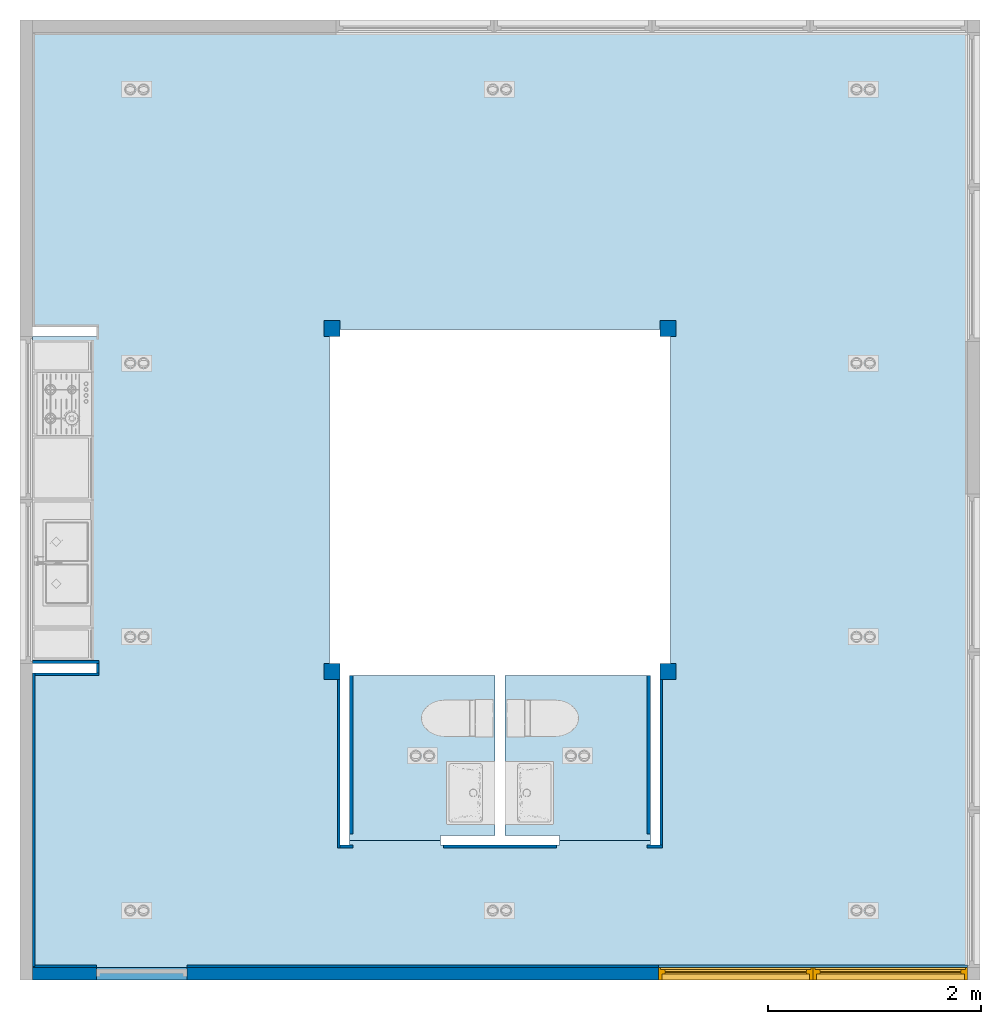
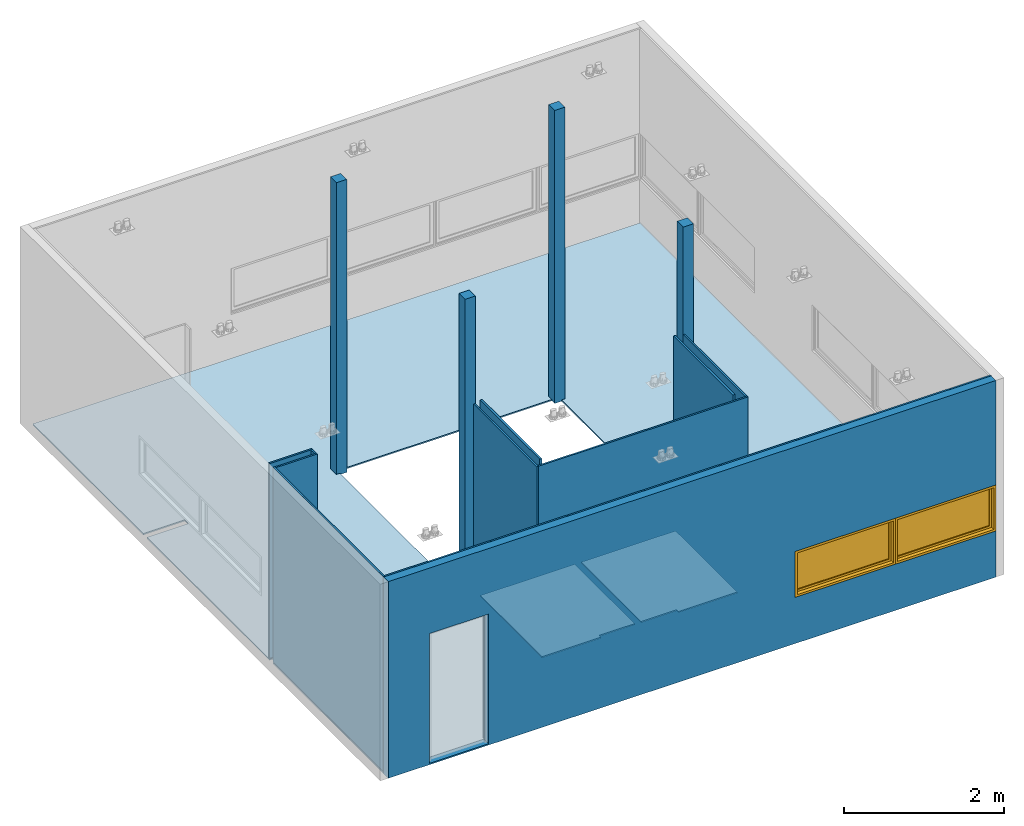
"""IFC2X3 building model written with IfcOpenShell, lengths in centimetres."""

from ifc_helpers import new_model, entity, si_unit, converted_unit, derived_unit, direction, frame, frame_2d, origin, origin_2d_with_axis, place, context, subcontext, project, spatial, polyline, rectangle, outline, extrude, boolean, source, transform, mapped, material, material_list, layer, layer_set, layer_usage, type_object, type_shapes, element, fill, save


model = new_model("IFC2X3")

# Units and contexts
model_context = context("Model", 3, precision=0.001, world=origin(), true_north=direction((6.123233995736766e-17, 1.0)))
body_context = subcontext(model_context, "Body", "Model", "MODEL_VIEW")
ifc_project = project(units=[si_unit("LENGTHUNIT", "METRE", prefix="CENTI"), si_unit("AREAUNIT", "SQUARE_METRE"), si_unit("VOLUMEUNIT", "CUBIC_METRE"), converted_unit("PLANEANGLEUNIT", "DEGREE", entity("IfcPlaneAngleMeasure", 0.017453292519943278), si_unit("PLANEANGLEUNIT", "RADIAN"), dimensions=[0, 0, 0, 0, 0, 0, 0]), si_unit("POWERUNIT", "WATT"), derived_unit("USERDEFINED", [(si_unit("MASSUNIT", "GRAM", prefix="KILO"), 1), (si_unit("TIMEUNIT", "SECOND"), -3)]), si_unit("FORCEUNIT", "NEWTON", prefix="KILO"), derived_unit("THERMALTRANSMITTANCEUNIT", [(si_unit("MASSUNIT", "GRAM", prefix="KILO"), 1), (si_unit("TIMEUNIT", "SECOND"), -3), (si_unit("THERMODYNAMICTEMPERATUREUNIT", "KELVIN"), -1)]), derived_unit("USERDEFINED", [(si_unit("MASSUNIT", "GRAM", prefix="KILO"), 1), (si_unit("THERMODYNAMICTEMPERATUREUNIT", "KELVIN"), -1), (si_unit("TIMEUNIT", "SECOND"), -2)]), derived_unit("THERMALRESISTANCEUNIT", [(si_unit("MASSUNIT", "GRAM", prefix="KILO"), -1), (si_unit("TIMEUNIT", "SECOND"), 3), (si_unit("THERMODYNAMICTEMPERATUREUNIT", "KELVIN"), 1)]), derived_unit("USERDEFINED", [(si_unit("MASSUNIT", "GRAM", prefix="KILO"), -1), (si_unit("TIMEUNIT", "SECOND"), 3), (si_unit("LENGTHUNIT", "METRE"), -2), (si_unit("LUMINOUSFLUXUNIT", "LUMEN"), 1)]), si_unit("LUMINOUSFLUXUNIT", "LUMEN")], contexts=[model_context])

# Site, building, storey
site_placement = place(None, origin())
site = spatial("IfcSite", under=ifc_project, at=site_placement, Name="Default", CompositionType="ELEMENT")
building_placement = place(site_placement, origin())
building = spatial("IfcBuilding", under=site, at=building_placement, Name="Workshop Hbaitáculo - Refugio Tierra del Fuego", CompositionType="ELEMENT")
storey_1_placement = place(building_placement, frame((0.0, 0.0, 123.0)))
storey_1 = spatial("IfcBuildingStorey", under=building, at=storey_1_placement, Name="NPT", CompositionType="ELEMENT", Elevation=123.0)

# Columns
ifc_material_1 = material(Name="Madera Oscura")
column_type_1 = type_object("IfcColumnType", Name="Pilar:150x150 mm", PredefinedType="COLUMN", material=ifc_material_1)
shared_shape_1 = source(origin(), body_context, "Body", "SweptSolid", [
    extrude(rectangle(XDim=14.999999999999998, YDim=14.999999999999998, at=origin_2d_with_axis()), frame((0.0, 0.0, 121.0), z_axis=(0.0, 0.0, 1.0), x_axis=(0.0, 1.0, 0.0)), (0.0, 0.0, 1.0), 463.9999999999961),
])
type_shapes(column_type_1, [shared_shape_1])
column_1_placement = place(storey_1_placement, frame((292.49999999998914, -301.75000000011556, -123.0)))
element("IfcColumn", 1, at=column_1_placement, inside=storey_1, type_object=column_type_1, material=ifc_material_1, Name="Pilar:150x150 mm", ObjectType="Pilar:150x150 mm", context=body_context, shape_type="MappedRepresentation", body=[
    mapped(shared_shape_1, transform((0.0, 0.0, 0.0), scale=1.0)),
])
column_type_2 = type_object("IfcColumnType", Name="Pilar:150x150 mm", PredefinedType="COLUMN", material=ifc_material_1)
shared_shape_2 = source(origin(), body_context, "Body", "SweptSolid", [
    extrude(rectangle(XDim=14.999999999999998, YDim=14.999999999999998, at=origin_2d_with_axis()), frame((0.0, 0.0, 121.0), z_axis=(0.0, 0.0, 1.0), x_axis=(-1.0, 0.0, 0.0)), (0.0, 0.0, 1.0), 463.9999999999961),
])
type_shapes(column_type_2, [shared_shape_2])
column_2_placement = place(storey_1_placement, frame((607.5000000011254, -301.75000000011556, -123.0), z_axis=(0.0, 0.0, 1.0), x_axis=(-1.0, 0.0, 0.0)))
element("IfcColumn", 2, at=column_2_placement, inside=storey_1, type_object=column_type_2, material=ifc_material_1, Name="Pilar:150x150 mm", ObjectType="Pilar:150x150 mm", context=body_context, shape_type="MappedRepresentation", body=[
    mapped(shared_shape_2, transform((0.0, 0.0, 0.0), scale=1.0)),
])
column_type_3 = type_object("IfcColumnType", Name="Pilar:150x150 mm", PredefinedType="COLUMN", material=ifc_material_1)
shared_shape_3 = source(origin(), body_context, "Body", "SweptSolid", [
    extrude(rectangle(XDim=14.999999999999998, YDim=14.999999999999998, at=origin_2d_with_axis()), frame((0.0, 0.0, 121.0), z_axis=(0.0, 0.0, 1.0), x_axis=(-1.0, 0.0, 0.0)), (0.0, 0.0, 1.0), 446.99999999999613),
])
type_shapes(column_type_3, [shared_shape_3])
column_3_placement = place(storey_1_placement, frame((292.4999999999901, 19.74999999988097, -123.0)))
element("IfcColumn", 3, at=column_3_placement, inside=storey_1, type_object=column_type_3, material=ifc_material_1, Name="Pilar:150x150 mm", ObjectType="Pilar:150x150 mm", context=body_context, shape_type="MappedRepresentation", body=[
    mapped(shared_shape_3, transform((0.0, 0.0, 0.0), scale=1.0)),
])
column_type_4 = type_object("IfcColumnType", Name="Pilar:150x150 mm", PredefinedType="COLUMN", material=ifc_material_1)
shared_shape_4 = source(origin(), body_context, "Body", "SweptSolid", [
    extrude(rectangle(XDim=14.999999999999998, YDim=14.999999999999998, at=origin_2d_with_axis()), frame((0.0, 0.0, 121.0), z_axis=(0.0, 0.0, 1.0), x_axis=(0.0, 1.0, 0.0)), (0.0, 0.0, 1.0), 446.99999999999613),
])
type_shapes(column_type_4, [shared_shape_4])
column_4_placement = place(storey_1_placement, frame((607.5000000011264, 19.74999999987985, -123.0), z_axis=(0.0, 0.0, 1.0), x_axis=(-1.0, 0.0, 0.0)))
element("IfcColumn", 4, at=column_4_placement, inside=storey_1, type_object=column_type_4, material=ifc_material_1, Name="Pilar:150x150 mm", ObjectType="Pilar:150x150 mm", context=body_context, shape_type="MappedRepresentation", body=[
    mapped(shared_shape_4, transform((0.0, 0.0, 0.0), scale=1.0)),
])

# Slab, opening
ifc_material_2 = material(Name="Pav Tipo Madera")
ifc_layer_1 = layer(ifc_material_2, 2.0)
ifc_layer_set_1 = layer_set([ifc_layer_1], Name="Suelo:PAV Tipo Madera")
ifc_layer_usage_1 = layer_usage(ifc_layer_set_1, "AXIS3", "POSITIVE", 0.0)
slab_type_1 = type_object("IfcSlabType", Name="Suelo:PAV Tipo Madera", PredefinedType="FLOOR", material=ifc_layer_set_1)
slab_1_placement = place(storey_1_placement, origin())
slab_1 = element("IfcSlab", 5, at=slab_1_placement, inside=storey_1, type_object=slab_type_1, material=ifc_layer_usage_1, Name="Suelo:PAV Tipo Madera", ObjectType="Suelo:PAV Tipo Madera", PredefinedType="FLOOR", context=body_context, shape_type="CSG", body=[
    boolean("DIFFERENCE", extrude(outline(polyline([(-438.4499999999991, -166.1000000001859), (-162.24999999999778, -166.1000000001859), (-162.24999999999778, -106.25000000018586), (-153.24999999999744, -106.25000000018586), (-153.24999999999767, -166.1000000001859), (153.24999999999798, -166.1000000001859), (153.24999999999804, -106.25000000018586), (162.25000000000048, -106.25000000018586), (162.2499999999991, -166.1000000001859), (438.44999999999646, -166.1000000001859), (438.44999999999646, 710.8000000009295), (-438.4499999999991, 710.8000000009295), (-438.4499999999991, -166.1000000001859)])), frame((177.65000000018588, -141.0, 0.0), z_axis=(0.0, 0.0, -1.0), x_axis=(0.0, 1.0, 0.0)), (0.0, 0.0, 1.0), 2.0000000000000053), extrude(outline(polyline([(-114.4249999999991, -141.0), (-114.424999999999, -150.0), (40.97499999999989, -150.0), (40.974999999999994, -165.0), (55.97499999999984, -165.0), (55.97499999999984, -160.0), (369.2249999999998, -160.0), (369.2249999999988, 160.0), (55.97499999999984, 160.0), (55.97499999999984, 165.0), (40.97499999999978, 165.0), (40.97499999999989, 150.0), (-114.42499999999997, 150.0), (-114.42499999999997, 141.0), (-109.92499999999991, 141.0), (-109.92499999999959, 56.0), (-114.42499999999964, 56.0), (-114.42499999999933, -56.0), (-109.92499999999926, -56.0), (-109.92499999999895, -141.0), (-114.4249999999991, -141.0)])), frame((450.0, -350.22500000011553, -2.0), z_axis=(0.0, 0.0, -1.0), x_axis=(0.0, 1.0, 0.0)), (0.0, 0.0, -1.0), 2.0000000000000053)),
])
opening_1_placement = place(slab_1_placement, origin())
element("IfcOpeningElement", 6, at=opening_1_placement, cuts=slab_1, Name="Suelo:PAV Tipo Madera", ObjectType="Opening", context=body_context, shape_type="SweptSolid", body=[
    extrude(outline(polyline([(309.0, -464.6500000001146), (309.0, -460.15000000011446), (394.0, -460.1500000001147), (394.0, -464.6500000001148), (506.0000000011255, -464.65000000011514), (506.0000000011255, -460.1500000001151), (591.0000000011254, -460.15000000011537), (591.0000000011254, -464.6500000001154), (600.0000000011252, -464.6500000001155), (600.0000000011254, -309.2500000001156), (615.0000000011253, -309.2500000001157), (615.0000000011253, -294.2500000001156), (610.0000000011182, -294.2500000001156), (610.0000000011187, 19.0), (290.0, 19.0), (290.0, -294.2500000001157), (285.0, -294.2500000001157), (285.0, -309.25000000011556), (300.0, -309.2500000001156), (300.0, -464.6500000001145), (309.0, -464.6500000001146)])), origin(), (0.0, 0.0, -1.0), 2.0000000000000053),
])

# Slabs
ifc_material_3 = material(Name="Pav Tipo Porcenalanato 1")
ifc_layer_2 = layer(ifc_material_3, 2.0)
ifc_layer_set_2 = layer_set([ifc_layer_2], Name="Suelo:PAV Tipo Porcelanato 1")
ifc_layer_usage_2 = layer_usage(ifc_layer_set_2, "AXIS3", "POSITIVE", 0.0)
slab_type_2 = type_object("IfcSlabType", Name="Suelo:PAV Tipo Porcelanato 1", PredefinedType="FLOOR", material=ifc_layer_set_2)
slab_2_placement = place(storey_1_placement, frame((309.0, -460.15000000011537, -2.0)))
element("IfcSlab", 7, at=slab_2_placement, inside=storey_1, type_object=slab_type_2, material=ifc_layer_usage_2, Name="Suelo:PAV Tipo Porcelanato 1", ObjectType="Suelo:PAV Tipo Porcelanato 1", PredefinedType="FLOOR", context=body_context, shape_type="SweptSolid", body=[
    extrude(outline(polyline([(56.0, -77.17499999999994), (141.0, -77.17499999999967), (141.0, 77.17499999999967), (4.500000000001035, 77.17499999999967), (4.500000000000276, -72.67500000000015), (56.0, -72.675), (56.0, -77.17499999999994)])), frame((141.0, 77.1750000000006, 2.0), z_axis=(0.0, 0.0, -1.0), x_axis=(-1.0, 0.0, 0.0)), (0.0, 0.0, 1.0), 2.0000000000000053),
])
slab_3_placement = place(storey_1_placement, frame((309.0, -460.15000000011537, -2.0)))
element("IfcSlab", 8, at=slab_3_placement, inside=storey_1, type_object=slab_type_2, material=ifc_layer_usage_2, Name="Suelo:PAV Tipo Porcelanato 1:2", ObjectType="Suelo:PAV Tipo Porcelanato 1", PredefinedType="FLOOR", context=body_context, shape_type="SweptSolid", body=[
    extrude(outline(polyline([(-56.0, -77.17500000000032), (-56.0, -72.67500000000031), (-4.499999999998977, -72.67499999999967), (-4.499999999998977, 77.17499999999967), (-141.0, 77.17499999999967), (-141.0, -77.1750000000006), (-56.0, -77.17500000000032)])), frame((141.0, 77.1750000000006, 2.0), z_axis=(0.0, 0.0, -1.0), x_axis=(-1.0, 0.0, 0.0)), (0.0, 0.0, 1.0), 2.0000000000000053),
])

# Wall, openings
ifc_material_4 = material(Name="SIP OSB")
ifc_layer_3 = layer(ifc_material_4, 1.1)
ifc_material_5 = material(Name="SIP Aislamiento - Poliestireno expandido")
ifc_layer_4 = layer(ifc_material_5, 9.5)
ifc_layer_5 = layer(ifc_material_4, 1.1)
ifc_layer_set_3 = layer_set([ifc_layer_3, ifc_layer_4, ifc_layer_5], Name="Muro básico:Panel SiP perimetral 117mm")
ifc_layer_usage_3 = layer_usage(ifc_layer_set_3, "AXIS2", "POSITIVE", -5.849999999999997)
wall_type_1 = type_object("IfcWallType", Name="Muro básico:Panel SiP perimetral 117mm", PredefinedType="STANDARD", material=ifc_layer_set_3)
wall_1_placement = place(storey_1_placement, frame((11.549999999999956, -585.300000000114, -2.0)))
wall_1 = element("IfcWallStandardCase", 9, at=wall_1_placement, inside=storey_1, type_object=wall_type_1, material=ifc_layer_usage_3, Name="Muro básico:Panel SiP perimetral 117mm", ObjectType="Muro básico:Panel SiP perimetral 117mm", context=body_context, shape_type="SweptSolid", body=[
    extrude(rectangle(XDim=876.9000000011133, YDim=11.700000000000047, at=frame_2d((438.4500000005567, -4.574118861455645e-14), x_axis=(-1.0, 0.0))), origin(), (0.0, 0.0, 1.0), 299.99999999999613),
])
opening_2_placement = place(wall_1_placement, frame((732.0500000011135, -5.8500000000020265, 70.50000000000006)))
opening_2 = element("IfcOpeningElement", 10, at=opening_2_placement, cuts=wall_1, Name="M_Fixed1:145*70:1", ObjectType="Opening", context=body_context, shape_type="SweptSolid", body=[
    extrude(rectangle(XDim=69.99999999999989, YDim=144.9999999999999, at=frame_2d((34.99999999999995, 72.5), x_axis=(1.0, 0.0))), frame((0.0, 0.0, 0.0), z_axis=(0.0, 1.0, 0.0), x_axis=(0.0, 0.0, 1.0)), (0.0, 0.0, 1.0), 11.699999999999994),
])
opening_3_placement = place(wall_1_placement, frame((587.0500000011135, -5.850000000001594, 70.50000000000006)))
opening_3 = element("IfcOpeningElement", 11, at=opening_3_placement, cuts=wall_1, Name="M_Fixed1:145*70:1", ObjectType="Opening", context=body_context, shape_type="SweptSolid", body=[
    extrude(rectangle(XDim=69.99999999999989, YDim=144.9999999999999, at=frame_2d((34.99999999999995, 72.5), x_axis=(1.0, 0.0))), frame((0.0, 0.0, 0.0), z_axis=(0.0, 1.0, 0.0), x_axis=(0.0, 0.0, 1.0)), (0.0, 0.0, 1.0), 11.699999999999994),
])
opening_4_placement = place(wall_1_placement, frame((59.84999999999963, -5.8500000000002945, 2.0)))
element("IfcOpeningElement", 12, at=opening_4_placement, cuts=wall_1, Name="TBC-P-PuertaSimpleMadera:TBC_ARQ_PuertaSimple_P85:1", ObjectType="Opening", context=body_context, shape_type="SweptSolid", body=[
    extrude(rectangle(XDim=197.9999999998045, YDim=84.99999999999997, at=frame_2d((98.99999999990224, 42.499999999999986), x_axis=(1.0, 0.0))), frame((0.0, 0.0, 0.0), z_axis=(0.0, 1.0, 0.0), x_axis=(0.0, 0.0, 1.0)), (0.0, 0.0, 1.0), 11.699999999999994),
])

# Storey
storey_2_placement = place(building_placement, frame((0.0, 0.0, 100.0)))
storey_2 = spatial("IfcBuildingStorey", under=building, at=storey_2_placement, Name="NOG_PISO 1", CompositionType="ELEMENT", Elevation=100.0)

# Window
ifc_material_6 = material(Name="Aluminio anodizado, antracita")
ifc_material_7 = material(Name="Glass")
ifc_material_list = material_list([ifc_material_6, ifc_material_7])
window_style = type_object("IfcWindowStyle", Name="M_Fixed1:145*70", ConstructionType="NOTDEFINED", OperationType="NOTDEFINED", ParameterTakesPrecedence=False, Sizeable=False, material=ifc_material_list)
shared_shape_5 = source(origin(), body_context, "Body", "SweptSolid", [
    extrude(outline(polyline([(-72.49999999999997, -35.0), (72.49999999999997, -35.0), (72.49999999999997, 35.0), (-72.49999999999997, 35.0), (-72.49999999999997, -35.0)]), holes=[polyline([(-69.29999999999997, -31.799999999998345), (-69.29999999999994, 31.80000000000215), (69.29999999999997, 31.80000000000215), (69.29999999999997, -31.799999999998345), (-69.29999999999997, -31.799999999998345)])]), frame((72.50000000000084, 0.0, 35.0), z_axis=(0.0, 1.0, 0.0), x_axis=(1.0, 0.0, 0.0)), (0.0, 0.0, 1.0), 5.399999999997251),
    extrude(outline(polyline([(-72.49999999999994, -35.0), (72.49999999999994, -35.0), (72.49999999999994, 35.0), (-72.49999999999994, 35.0), (-72.49999999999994, -35.0)]), holes=[polyline([(-70.60000000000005, -33.09999999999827), (-70.60000000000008, 33.10000000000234), (70.59999999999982, 33.10000000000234), (70.59999999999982, -33.09999999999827), (-70.60000000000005, -33.09999999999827)])]), frame((72.50000000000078, 5.399999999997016, 35.0), z_axis=(0.0, 1.0, 0.0), x_axis=(1.0, 0.0, 0.0)), (0.0, 0.0, 1.0), 6.300000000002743),
    extrude(outline(polyline([(-70.59999999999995, -33.1000000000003), (70.59999999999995, -33.1000000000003), (70.59999999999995, 33.100000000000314), (-70.59999999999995, 33.100000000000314), (-70.59999999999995, -33.1000000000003)]), holes=[polyline([(-66.19999999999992, -28.70000000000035), (-66.19999999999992, 28.700000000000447), (66.1999999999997, 28.700000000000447), (66.1999999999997, -28.70000000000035), (-66.19999999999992, -28.70000000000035)])]), frame((72.50000000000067, 5.399999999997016, 35.0), z_axis=(0.0, 1.0, 0.0), x_axis=(1.0, 0.0, 0.0)), (0.0, 0.0, 1.0), 4.400000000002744),
    extrude(rectangle(XDim=1.1999999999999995, YDim=132.39999999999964, at=origin_2d_with_axis()), frame((72.50000000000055, 7.599999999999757, 6.299999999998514), z_axis=(0.0, 0.0, 1.0), x_axis=(0.0, -1.0, 0.0)), (0.0, 0.0, 1.0), 57.400000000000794),
])
type_shapes(window_style, [shared_shape_5])
window_1_placement = place(opening_2_placement, origin())
window_1 = element("IfcWindow", 13, at=window_1_placement, inside=storey_2, type_object=window_style, material=ifc_material_list, Name="M_Fixed1:145*70", ObjectType="M_Fixed1:145*70", OverallHeight=69.9999999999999, OverallWidth=144.99999999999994, context=body_context, shape_type="MappedRepresentation", body=[
    mapped(shared_shape_5, transform((0.0, 0.0, 0.0), scale=1.0)),
])

fill(opening_2, window_1)

window_2_placement = place(opening_3_placement, origin())
window_2 = element("IfcWindow", 14, at=window_2_placement, inside=storey_2, type_object=window_style, material=ifc_material_list, Name="M_Fixed1:145*70", ObjectType="M_Fixed1:145*70", OverallHeight=69.9999999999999, OverallWidth=144.99999999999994, context=body_context, shape_type="MappedRepresentation", body=[
    mapped(shared_shape_5, transform((0.0, 0.0, 0.0), scale=1.0)),
])

fill(opening_3, window_2)

# Walls
ifc_material_8 = material(Name="Rev Melamina tipo madera")
ifc_layer_6 = layer(ifc_material_8, 1.5)
ifc_material_9 = material(Name="Volcanita ST")
ifc_layer_7 = layer(ifc_material_9, 1.0)
ifc_layer_set_4 = layer_set([ifc_layer_6, ifc_layer_7], Name="Muro básico:Rev Volcanita ST +  Melamina tipo madera")
ifc_layer_usage_4 = layer_usage(ifc_layer_set_4, "AXIS2", "POSITIVE", -1.25)
wall_type_2 = type_object("IfcWallType", Name="Muro básico:Rev Volcanita ST +  Melamina tipo madera", PredefinedType="STANDARD", material=ifc_layer_set_4)
wall_2_placement = place(storey_1_placement, frame((12.799999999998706, -578.4500000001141, 1.0), z_axis=(0.0, 0.0, 1.0), x_axis=(0.0, 1.0, 0.0)))
element("IfcWallStandardCase", 15, at=wall_2_placement, inside=storey_1, type_object=wall_type_2, material=ifc_layer_usage_4, Name="Muro básico:Rev Volcanita ST +  Melamina tipo madera", ObjectType="Muro básico:Rev Volcanita ST +  Melamina tipo madera", context=body_context, shape_type="SweptSolid", body=[
    extrude(rectangle(XDim=275.1999999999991, YDim=2.5, at=frame_2d((137.59999999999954, -1.1102230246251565e-16), x_axis=(-1.0, 0.0))), origin(), (0.0, 0.0, 1.0), 296.99999999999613),
])
ifc_layer_usage_5 = layer_usage(ifc_layer_set_4, "AXIS2", "POSITIVE", -1.25)
wall_3_placement = place(storey_1_placement, frame((14.05, -304.50000000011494, 1.0)))
element("IfcWallStandardCase", 16, at=wall_3_placement, inside=storey_1, type_object=wall_type_2, material=ifc_layer_usage_5, Name="Muro básico:Rev Volcanita ST +  Melamina tipo madera", ObjectType="Muro básico:Rev Volcanita ST +  Melamina tipo madera", context=body_context, shape_type="SweptSolid", body=[
    extrude(rectangle(XDim=59.84999999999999, YDim=2.499999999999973, at=frame_2d((29.924999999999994, -1.1435297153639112e-14), x_axis=(-1.0, 0.0))), origin(), (0.0, 0.0, 1.0), 296.99999999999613),
])

# Wall, openings
ifc_layer_usage_6 = layer_usage(ifc_layer_set_4, "AXIS2", "NEGATIVE", 1.25)
wall_4_placement = place(storey_1_placement, frame((11.549999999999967, -578.2000000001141, 1.0)))
wall_4 = element("IfcWallStandardCase", 17, at=wall_4_placement, inside=storey_1, type_object=wall_type_2, material=ifc_layer_usage_6, Name="Muro básico:Rev Volcanita ST +  Melamina tipo madera", ObjectType="Muro básico:Rev Volcanita ST +  Melamina tipo madera", context=body_context, shape_type="SweptSolid", body=[
    extrude(rectangle(XDim=877.0500000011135, YDim=2.5000000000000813, at=frame_2d((438.52500000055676, -2.220446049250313e-16), x_axis=(-1.0, 0.0))), origin(), (0.0, 0.0, 1.0), 296.99999999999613),
])
opening_5_placement = place(wall_4_placement, origin())
element("IfcOpeningElement", 18, at=opening_5_placement, cuts=wall_4, Name="Muro básico:Rev Volcanita ST +  Melamina tipo madera", ObjectType="Opening", context=body_context, shape_type="SweptSolid", body=[
    extrude(rectangle(XDim=69.99999999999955, YDim=289.99999999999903, at=frame_2d((1.4210854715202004e-14, 0.0), x_axis=(1.0, 0.0))), frame((732.050000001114, 1.250000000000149, 96.0), z_axis=(0.0, -1.0, 0.0), x_axis=(0.0, 0.0, 1.0)), (0.0, 0.0, 1.0), 2.5),
])
opening_6_placement = place(wall_4_placement, origin())
element("IfcOpeningElement", 19, at=opening_6_placement, cuts=wall_4, Name="Muro básico:Rev Volcanita ST +  Melamina tipo madera", ObjectType="Opening", context=body_context, shape_type="SweptSolid", body=[
    extrude(rectangle(XDim=196.99999999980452, YDim=84.99999999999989, at=frame_2d((0.0, 3.552713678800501e-14), x_axis=(0.0, 1.0))), frame((102.34999999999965, 1.250000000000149, 98.49999999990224), z_axis=(0.0, -1.0, 0.0), x_axis=(1.0, 0.0, 0.0)), (0.0, 0.0, 1.0), 2.5),
])

# Walls
ifc_layer_usage_7 = layer_usage(ifc_layer_set_4, "AXIS2", "POSITIVE", -1.25)
wall_5_placement = place(storey_1_placement, frame((298.7499999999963, -309.2500000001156, 1.0), z_axis=(0.0, 0.0, 1.0), x_axis=(0.0, -1.0, 0.0)))
element("IfcWallStandardCase", 20, at=wall_5_placement, inside=storey_1, type_object=wall_type_2, material=ifc_layer_usage_7, Name="Muro básico:Rev Volcanita ST +  Melamina tipo madera", ObjectType="Muro básico:Rev Volcanita ST +  Melamina tipo madera", context=body_context, shape_type="SweptSolid", body=[
    extrude(rectangle(XDim=157.89999999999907, YDim=2.499999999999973, at=frame_2d((78.94999999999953, 0.0), x_axis=(-1.0, 0.0))), origin(), (0.0, 0.0, 1.0), 296.99999999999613),
])
ifc_layer_usage_8 = layer_usage(ifc_layer_set_4, "AXIS2", "NEGATIVE", 1.25)
wall_6_placement = place(storey_1_placement, frame((11.549999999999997, -293.0, 1.0)))
element("IfcWallStandardCase", 21, at=wall_6_placement, inside=storey_1, type_object=wall_type_2, material=ifc_layer_usage_8, Name="Muro básico:Rev Volcanita ST +  Melamina tipo madera", ObjectType="Muro básico:Rev Volcanita ST +  Melamina tipo madera", context=body_context, shape_type="SweptSolid", body=[
    extrude(rectangle(XDim=62.349999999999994, YDim=2.499999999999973, at=frame_2d((31.174999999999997, -1.7430501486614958e-14), x_axis=(-1.0, 0.0))), origin(), (0.0, 0.0, 1.0), 296.99999999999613),
])
ifc_layer_usage_9 = layer_usage(ifc_layer_set_4, "AXIS2", "POSITIVE", -1.25)
wall_7_placement = place(storey_1_placement, frame((72.64999999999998, -303.2500000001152, 1.0), z_axis=(0.0, 0.0, 1.0), x_axis=(0.0, 1.0, 0.0)))
element("IfcWallStandardCase", 22, at=wall_7_placement, inside=storey_1, type_object=wall_type_2, material=ifc_layer_usage_9, Name="Muro básico:Rev Volcanita ST +  Melamina tipo madera", ObjectType="Muro básico:Rev Volcanita ST +  Melamina tipo madera", context=body_context, shape_type="SweptSolid", body=[
    extrude(rectangle(XDim=9.00000000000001, YDim=2.5, at=frame_2d((4.500000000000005, 1.1102230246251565e-16), x_axis=(-1.0, 0.0))), origin(), (0.0, 0.0, 1.0), 296.99999999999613),
])

# Wall, openings
ifc_layer_usage_10 = layer_usage(ifc_layer_set_4, "AXIS2", "POSITIVE", -1.25)
wall_8_placement = place(storey_1_placement, frame((300.0, -465.9000000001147, 1.0)))
wall_8 = element("IfcWallStandardCase", 23, at=wall_8_placement, inside=storey_1, type_object=wall_type_2, material=ifc_layer_usage_10, Name="Muro básico:Rev Volcanita ST +  Melamina tipo madera", ObjectType="Muro básico:Rev Volcanita ST +  Melamina tipo madera", context=body_context, shape_type="SweptSolid", body=[
    extrude(rectangle(XDim=302.5000000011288, YDim=2.499999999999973, at=frame_2d((151.2500000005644, 0.0), x_axis=(-1.0, 0.0))), origin(), (0.0, 0.0, 1.0), 296.99999999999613),
])
opening_7_placement = place(wall_8_placement, origin())
element("IfcOpeningElement", 24, at=opening_7_placement, cuts=wall_8, Name="Muro básico:Rev Volcanita ST +  Melamina tipo madera", ObjectType="Opening", context=body_context, shape_type="SweptSolid", body=[
    extrude(rectangle(XDim=195.99999999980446, YDim=84.99999999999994, at=frame_2d((1.4210854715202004e-14, 0.0), x_axis=(1.0, 0.0))), frame((245.50000000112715, 1.2499999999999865, 98.0), z_axis=(0.0, -1.0, 0.0), x_axis=(0.0, 0.0, 1.0)), (0.0, 0.0, 1.0), 2.5),
])
opening_8_placement = place(wall_8_placement, origin())
element("IfcOpeningElement", 25, at=opening_8_placement, cuts=wall_8, Name="Muro básico:Rev Volcanita ST +  Melamina tipo madera", ObjectType="Opening", context=body_context, shape_type="SweptSolid", body=[
    extrude(rectangle(XDim=195.99999999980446, YDim=85.0, at=frame_2d((1.4210854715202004e-14, -2.842170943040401e-14), x_axis=(1.0, 0.0))), frame((54.49999999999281, 1.2499999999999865, 98.0), z_axis=(0.0, -1.0, 0.0), x_axis=(0.0, 0.0, 1.0)), (0.0, 0.0, 1.0), 2.5),
])

# Walls
ifc_layer_usage_11 = layer_usage(ifc_layer_set_4, "AXIS2", "POSITIVE", -1.25)
wall_9_placement = place(storey_1_placement, frame((601.2500000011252, -464.65000000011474, 1.0), z_axis=(0.0, 0.0, 1.0), x_axis=(0.0, 1.0, 0.0)))
element("IfcWallStandardCase", 26, at=wall_9_placement, inside=storey_1, type_object=wall_type_2, material=ifc_layer_usage_11, Name="Muro básico:Rev Volcanita ST +  Melamina tipo madera", ObjectType="Muro básico:Rev Volcanita ST +  Melamina tipo madera", context=body_context, shape_type="SweptSolid", body=[
    extrude(rectangle(XDim=155.3999999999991, YDim=2.5000000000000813, at=frame_2d((77.69999999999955, -8.881784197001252e-16), x_axis=(-1.0, 0.0))), origin(), (0.0, 0.0, 1.0), 296.99999999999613),
])
ifc_material_10 = material(Name="Volcanita ZH")
ifc_layer_8 = layer(ifc_material_10, 1.25)
ifc_material_11 = material(Name="Rev Porcelanato ZH")
ifc_layer_9 = layer(ifc_material_11, 1.75)
ifc_layer_set_5 = layer_set([ifc_layer_8, ifc_layer_9], Name="Muro básico:Rev Porcelanato ZH")
ifc_layer_usage_12 = layer_usage(ifc_layer_set_5, "AXIS2", "NEGATIVE", 1.5)
wall_type_3 = type_object("IfcWallType", Name="Muro básico:Rev Porcelanato ZH", PredefinedType="STANDARD", material=ifc_layer_set_5)
wall_10_placement = place(storey_1_placement, frame((310.49999999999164, -454.45000000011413, 2.0), z_axis=(0.0, 0.0, 1.0), x_axis=(0.0, 1.0, 0.0)))
element("IfcWallStandardCase", 27, at=wall_10_placement, inside=storey_1, type_object=wall_type_3, material=ifc_layer_usage_12, Name="Muro básico:Rev Porcelanato ZH", ObjectType="Muro básico:Rev Porcelanato ZH", context=body_context, shape_type="SweptSolid", body=[
    extrude(rectangle(XDim=148.79999999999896, YDim=2.999999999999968, at=frame_2d((74.39999999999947, 5.773159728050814e-15), x_axis=(-1.0, 0.0))), origin(), (0.0, 0.0, 1.0), 295.99999999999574),
])
ifc_layer_usage_13 = layer_usage(ifc_layer_set_5, "AXIS2", "POSITIVE", -1.5)
wall_11_placement = place(storey_1_placement, frame((589.5000000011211, -454.4500000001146, 2.0), z_axis=(0.0, 0.0, 1.0), x_axis=(0.0, 1.0, 0.0)))
element("IfcWallStandardCase", 28, at=wall_11_placement, inside=storey_1, type_object=wall_type_3, material=ifc_layer_usage_13, Name="Muro básico:Rev Porcelanato ZH", ObjectType="Muro básico:Rev Porcelanato ZH", context=body_context, shape_type="SweptSolid", body=[
    extrude(rectangle(XDim=148.799999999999, YDim=2.9999999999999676, at=frame_2d((74.3999999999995, -1.5654144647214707e-14), x_axis=(-1.0, 0.0))), origin(), (0.0, 0.0, 1.0), 295.99999999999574),
])

save(model, "model.ifc")
